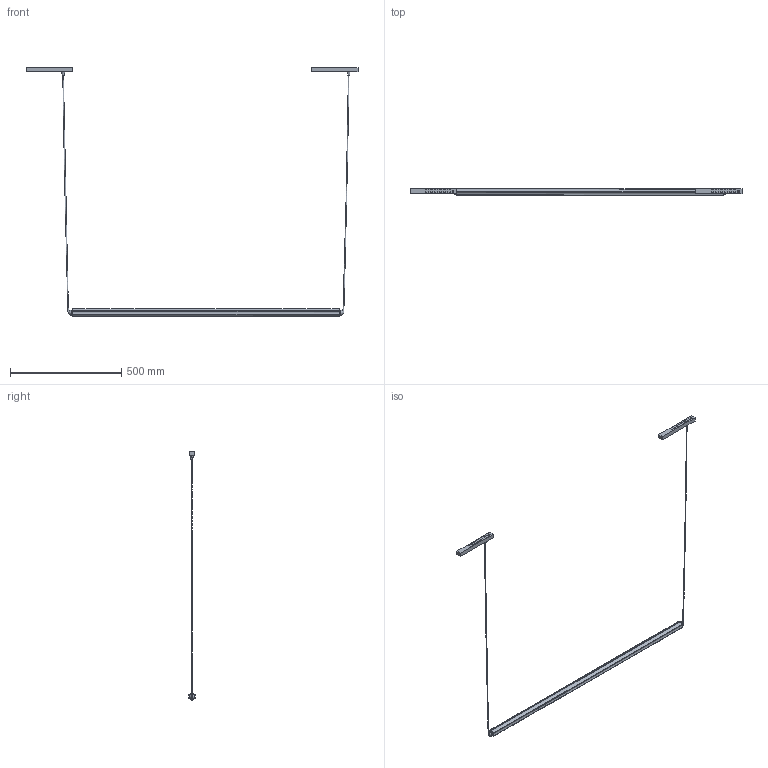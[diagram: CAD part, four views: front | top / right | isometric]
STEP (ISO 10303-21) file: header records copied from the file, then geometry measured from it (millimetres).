
FILE_DESCRIPTION(/* description */ (''),/* implementation_level */ '2;1');
FILE_NAME(/* name */ '64682141D_3d',/* time_stamp */ '2026-05-12T12:21:56+02:00',/* author */ (''),/* organization */ (''),/* preprocessor_version */ 'ST-DEVELOPER v19.2',/* originating_system */ 'Rhino 8.30',/* authorisation */ '');
FILE_SCHEMA (('CONFIG_CONTROL_DESIGN'));
Length unit declared in the file: millimetre
Products named in the file (1): Document
Bounding box: 1492.88 x 30.92 x 1119 mm (x, y, z)
Volume: 444402.8 mm3; surface area: 253545.2 mm2
Topology: 11 solids, 15 shells, 219 faces, 577 edges, 386 vertices
Faces by surface type: plane 112, cylinder 78, bspline 29
Entity records: 11951 total; most frequent: CARTESIAN_POINT 7409, ORIENTED_EDGE 1122, EDGE_CURVE 573, DIRECTION 452, B_SPLINE_CURVE_WITH_KNOTS 393, VERTEX_POINT 386, AXIS2_PLACEMENT_3D 321, EDGE_LOOP 257
